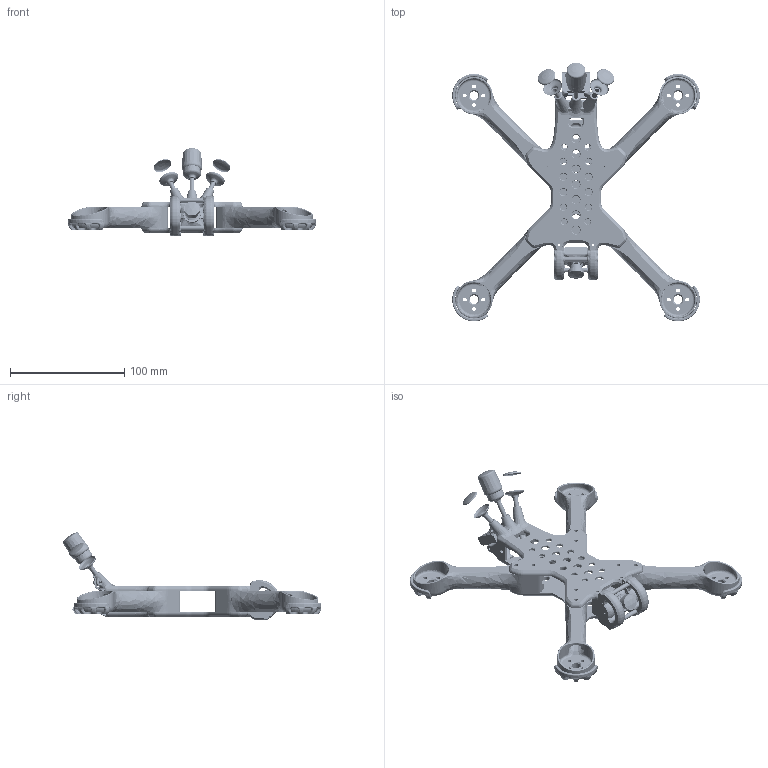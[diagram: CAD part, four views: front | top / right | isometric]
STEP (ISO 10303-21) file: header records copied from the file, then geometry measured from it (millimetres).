
FILE_DESCRIPTION(/* description */ (''),/* implementation_level */ '2;1');
FILE_NAME(/* name */ 'Leopard FPV drone.step',/* time_stamp */ '2026-01-24T18:50:41-05:00',/* author */ (''),/* organization */ (''),/* preprocessor_version */ 'ST-DEVELOPER v20.1',/* originating_system */ 'Autodesk Translation Framework v14.24.0.0',/* authorisation */ '');
FILE_SCHEMA (('AUTOMOTIVE_DESIGN { 1 0 10303 214 3 1 1 }'));
Products named in the file (1): Leopard FPV drone
Bounding box: 216.64 x 226.36 x 76.64 mm (x, y, z)
Volume: 356730.4 mm3; surface area: 223878.1 mm2
Topology: 42 solids, 42 shells, 7294 faces, 18181 edges, 10871 vertices
Faces by surface type: bspline 2056, cylinder 1935, plane 1913, cone 786, torus 573, sphere 31
Full cylindrical faces by diameter (mm): 2 x5, 2.1 x4, 2.2 x10, 2.3 x59, 2.4 x18, 2.6 x3, 3 x12, 3.1 x24, 3.2 x11, 3.3 x92, 3.5 x2, 4 x7, 4.2 x3, 4.3 x1, 4.5 x24, 4.6 x12, 4.8 x4, 5 x12, 5.5 x8, 6 x28, 6.8 x1, 7 x14, 7.5 x12, 7.9 x2, 9 x4, 10.741 x2, 11 x1, 11.884 x2, 14 x1, 15 x1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
Entity records: 286458 total; most frequent: CARTESIAN_POINT 122070, ORIENTED_EDGE 36182, DIRECTION 31367, EDGE_CURVE 18091, AXIS2_PLACEMENT_3D 12226, VERTEX_POINT 10871, EDGE_LOOP 7976, FACE_OUTER_BOUND 7294
